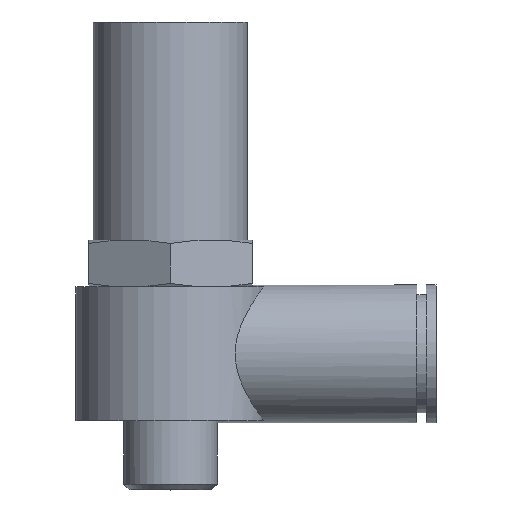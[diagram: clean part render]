
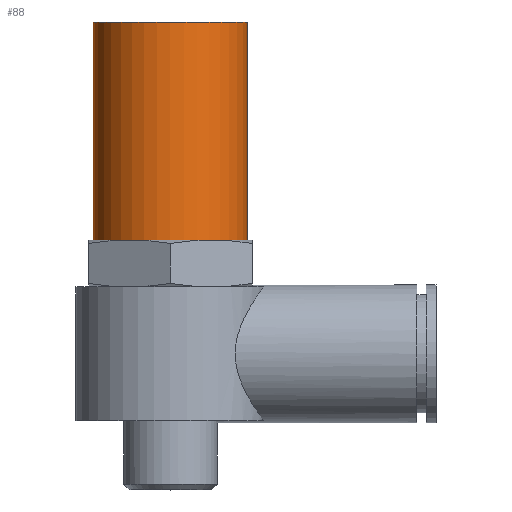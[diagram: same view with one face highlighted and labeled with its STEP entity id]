
A CAD part, top view. The second image highlights one B-rep face of the part: STEP entity #88.
In plain terms, the highlighted cylindrical face has radius 8 mm (diameter 16 mm), a full revolution.
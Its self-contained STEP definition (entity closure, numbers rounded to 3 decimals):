
#88=ADVANCED_FACE('',(#139,#140),#141,.T.);
#139=FACE_OUTER_BOUND('',#220,.T.);
#140=FACE_OUTER_BOUND('',#221,.T.);
#141=CYLINDRICAL_SURFACE('',#222,8.0);
#220=EDGE_LOOP('',(#376));
#221=EDGE_LOOP('',(#377));
#222=AXIS2_PLACEMENT_3D('',#378,#379,#380);
#376=ORIENTED_EDGE('',*,*,#557,.T.);
#377=ORIENTED_EDGE('',*,*,#558,.T.);
#378=CARTESIAN_POINT('',(0.0,-7.2,0.0));
#379=DIRECTION('',(0.0,-1.0,0.0));
#380=DIRECTION('',(0.0,0.0,-1.0));
#557=EDGE_CURVE('',#659,#659,#660,.T.);
#558=EDGE_CURVE('',#661,#661,#662,.T.);
#659=VERTEX_POINT('',#936);
#660=CIRCLE('',#937,8.0);
#661=VERTEX_POINT('',#938);
#662=CIRCLE('',#939,8.0);
#936=CARTESIAN_POINT('',(0.0,41.4,-8.0));
#937=AXIS2_PLACEMENT_3D('',#997,#998,#999);
#938=CARTESIAN_POINT('',(0.0,18.746,8.0));
#939=AXIS2_PLACEMENT_3D('',#1000,#1001,#1002);
#997=CARTESIAN_POINT('',(0.0,41.4,0.0));
#998=DIRECTION('',(0.0,-1.0,0.0));
#999=DIRECTION('',(0.0,0.0,-1.0));
#1000=CARTESIAN_POINT('',(0.0,18.746,0.0));
#1001=DIRECTION('',(0.0,1.0,0.0));
#1002=DIRECTION('',(0.0,0.0,1.0));
